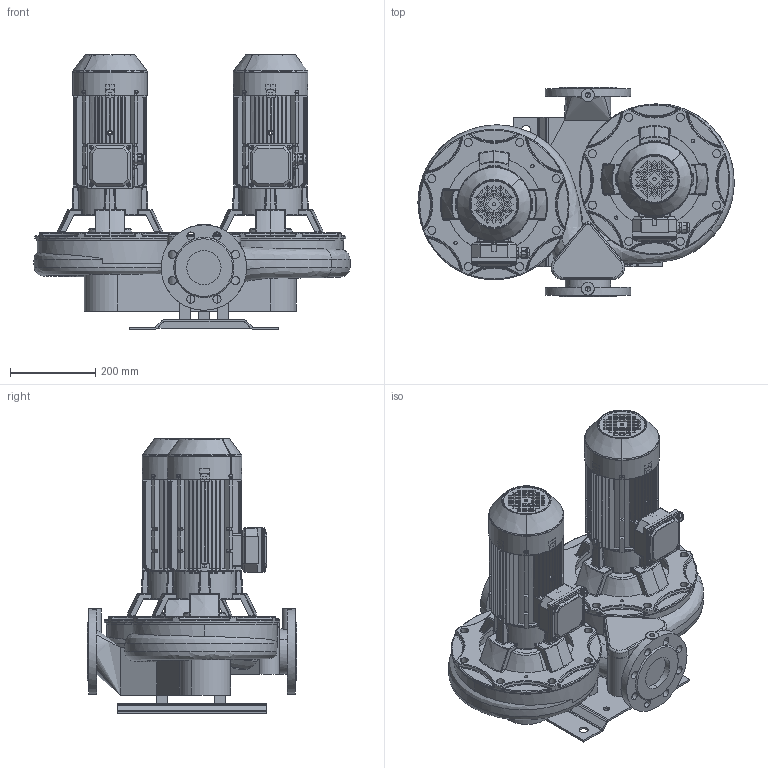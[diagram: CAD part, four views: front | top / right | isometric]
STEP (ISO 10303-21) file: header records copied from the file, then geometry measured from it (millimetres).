
FILE_DESCRIPTION(('STEP AP214'),'1');
FILE_NAME('export.stp','2018-05-30T08:02:15',(' '),(' '),'Spatial InterOp 3D',' ',' ');
FILE_SCHEMA(('AUTOMOTIVE_DESIGN { 1 0 10303 214 1 1 1 1 }'));
Length unit declared in the file: millimetre
Products named in the file (29): W_T80S4150-KP90; V_TLL50S80S; V_PPT80S; P100496; P100495; P100342; 160034; 160011; V_MKP902_F29; 160141; 160137; 160138; 160139; 160140; Koura_Ale_M5; Plug_Blind_M20; Sealing_Plug_M20; DIN_7985-M5X8; DIN_7985-M5X12; 480037; 480036___; 480039; 480038___; 160135
Assembly tree (49 placements, depth 4):
  W_T80S4150-KP90
    V_TLL50S80S  x2
    V_PPT80S
    P100496
      P100495  x2
      P100342
    V_MKP902_F29
      160034
        160011
      160141
        160137
        160138
        160139
        160140
        Koura_Ale_M5
        Plug_Blind_M20
        Sealing_Plug_M20
        DIN_7985-M5X8
        DIN_7985-M5X12  x4
      480037
        480036___
      480039
        480038___
      160135
    V_MKP902_F29
      160034
        160011
      160141
        160137
        160138
        160139
        160140
        Koura_Ale_M5
        Plug_Blind_M20
        Sealing_Plug_M20
        DIN_7985-M5X8
        DIN_7985-M5X12  x4
      480037
        480036___
      480039
        480038___
      160135
Bounding box: 740.31 x 490 x 643.99 mm (x, y, z)
Volume: 33677632.8 mm3; surface area: 6053539.9 mm2
Topology: 38 solids, 38 shells, 4835 faces, 12776 edges, 8059 vertices
Faces by surface type: plane 2019, cylinder 1417, torus 534, bspline 467, cone 334, sphere 64
Entity records: 100417 total; most frequent: CARTESIAN_POINT 35265, ORIENTED_EDGE 13202, DIRECTION 12283, EDGE_CURVE 6601, AXIS2_PLACEMENT_3D 4657, VERTEX_POINT 4196, LINE 2969, VECTOR 2969
